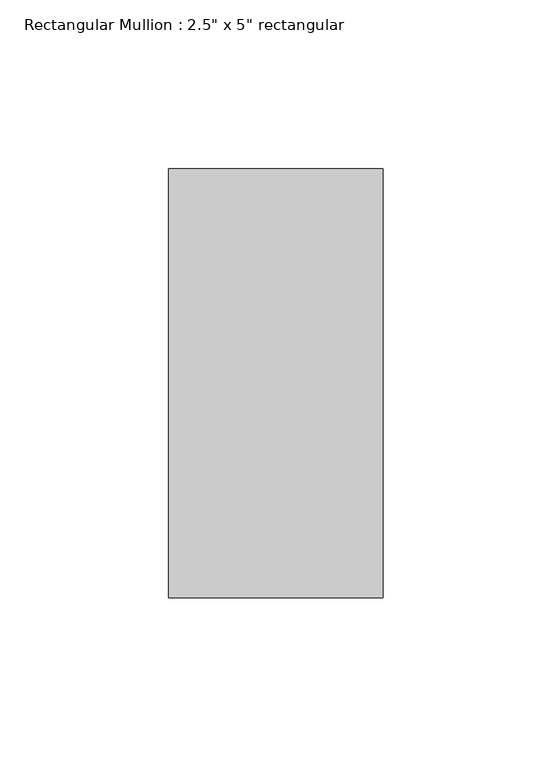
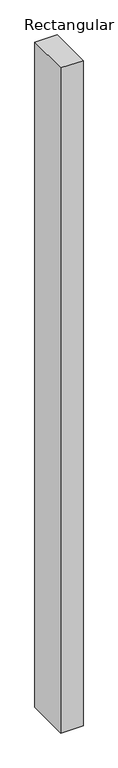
"""IFC4 building model written with IfcOpenShell, lengths in millimetres: member geometry."""

from ifc_helpers import new_model, si_unit, frame, origin, place, context, project, spatial, polyline, outline, extrude, source, transform, mapped, element, save


def member_cfd492dc(model_context):
    return source(origin(), model_context, "Body", "SweptSolid", [
        extrude(outline(polyline([(0.0, 63.5), (0.0, -63.5), (-63.5, -63.5), (-63.5, 63.5), (0.0, 63.5)])), frame((0.0, 0.0, -2000.25), z_axis=(0.0, 0.0, 1.0), x_axis=(1.0, 0.0, 0.0)), (0.0, 0.0, 1.0), 2000.25),
    ])


if __name__ == "__main__":
    model = new_model("IFC4")
    model_context = context("Model", 3, world=origin())
    ifc_project = project(units=[si_unit("LENGTHUNIT", "METRE", prefix="MILLI")], contexts=[model_context])
    site = spatial("IfcSite", under=ifc_project)
    building = spatial("IfcBuilding", under=site)
    placement = place(None, origin())
    member_shape = member_cfd492dc(model_context)
    element("IfcMember", 1, ObjectType="Rectangular Mullion : 2.5\" x 5\" rectangular", at=placement, inside=building, context=model_context, shape_type="MappedRepresentation", body=[
        mapped(member_shape, transform((0.0, 0.0, 0.0), x_axis=(1.0, 0.0, 0.0), y_axis=(0.0, 1.0, 0.0), z_axis=(0.0, 0.0, 1.0))),
    ])
    save(model, "model.ifc")
